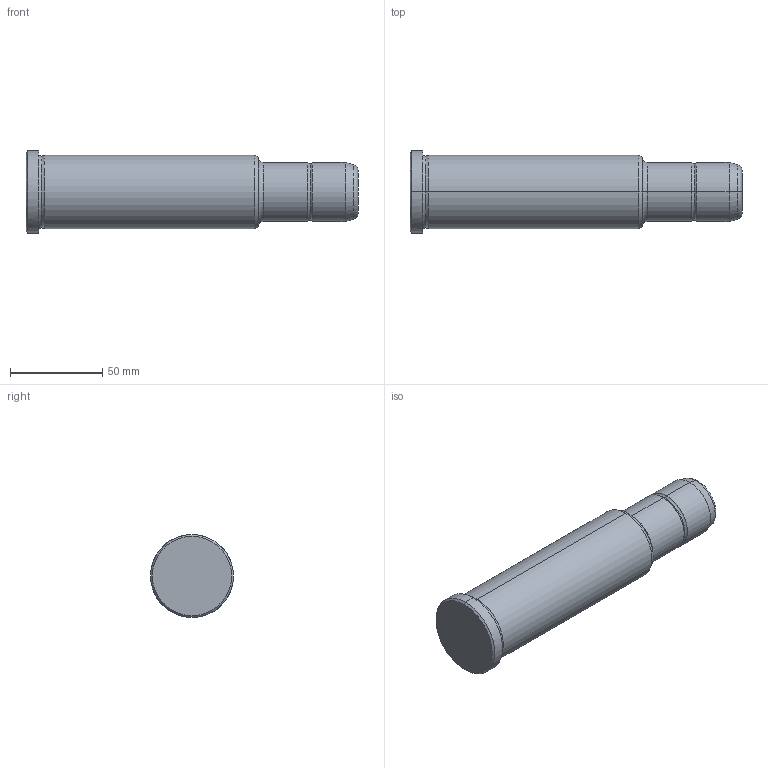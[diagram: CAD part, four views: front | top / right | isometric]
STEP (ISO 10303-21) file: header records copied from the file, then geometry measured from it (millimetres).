
FILE_DESCRIPTION(('CATIA V5 STEP Exchange'),'2;1');
FILE_NAME('C:\Users\Utente\Desktop\IO LAVORO\3D X SITO CF\X SITO\PLASTICA\351\351-32X126X180.stp','2021-09-15T12:27:41+00:00',('none'),('none'),'CATIA Version 5 Release 20 GA (IN-10)','CATIA V5 STEP AP203','none');
FILE_SCHEMA(('CONFIG_CONTROL_DESIGN'));
Length unit declared in the file: millimetre
Products named in the file (1): 351-32X126X180
Bounding box: 180 x 45 x 45 mm (x, y, z)
Volume: 203038.8 mm3; surface area: 24070 mm2
Topology: 1 solids, 1 shells, 30 faces, 86 edges, 60 vertices
Faces by surface type: torus 12, cylinder 8, cone 6, plane 4
Entity records: 1112 total; most frequent: CARTESIAN_POINT 289, ORIENTED_EDGE 172, DIRECTION 138, AXIS2_PLACEMENT_3D 95, EDGE_CURVE 86, CIRCLE 64, VERTEX_POINT 60, EDGE_LOOP 32
